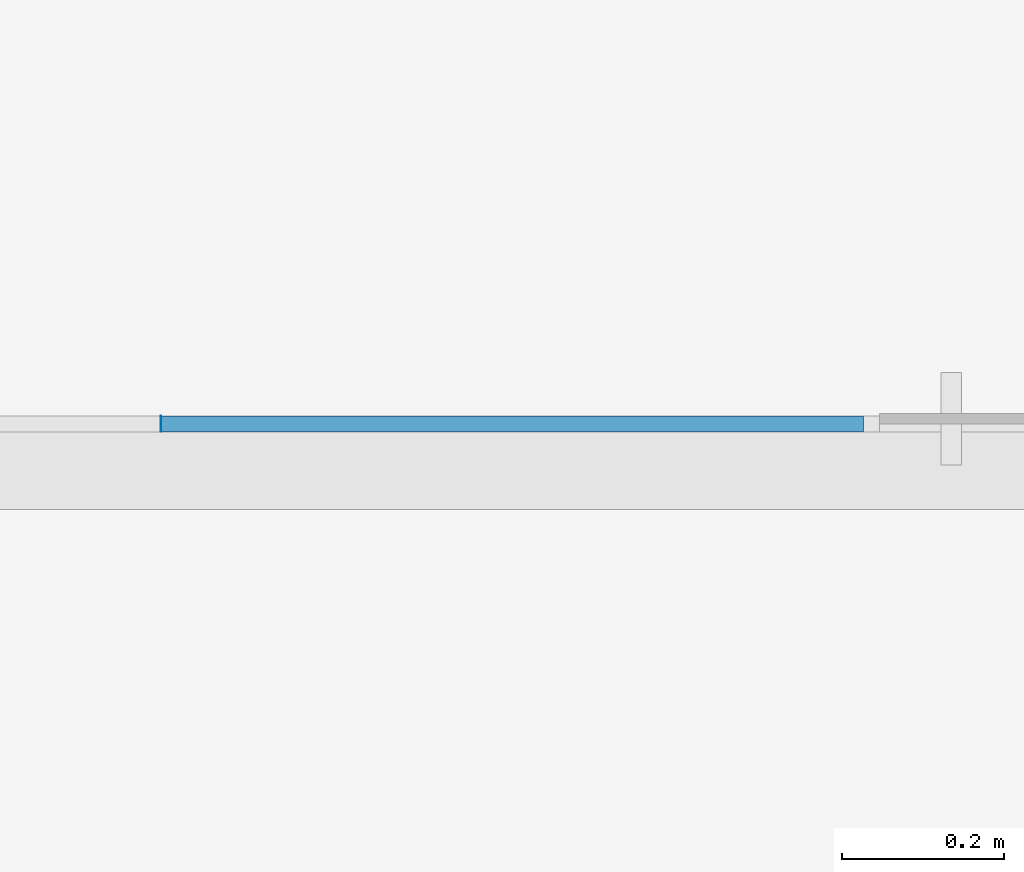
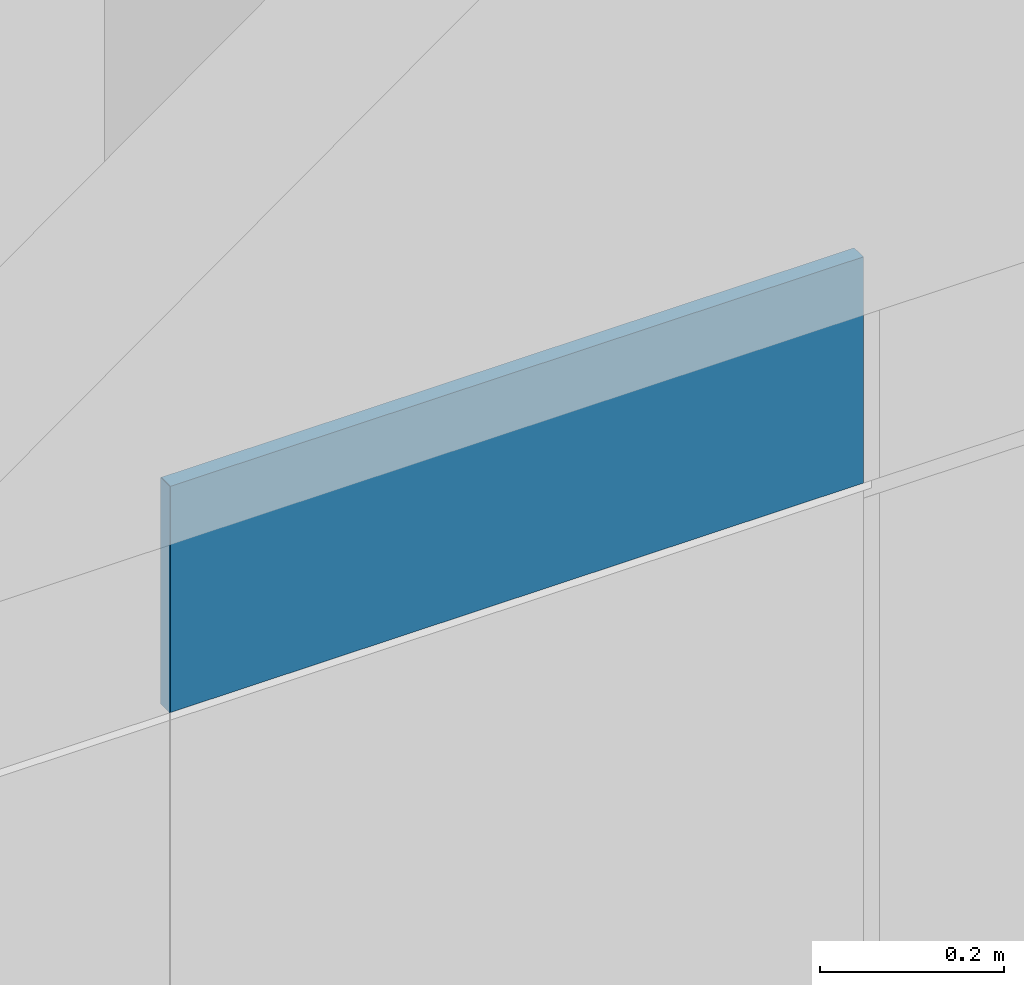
# One storey, part 30 of 66: 2 plates, 1 element without a shape of its own.
"""IFC2X3 building model written with IfcOpenShell, lengths in millimetres."""

from ifc_helpers import new_model, entity, si_unit, converted_unit, derived_unit, direction, frame, origin, origin_2d_with_axis, place, context, subcontext, project, spatial, rectangle, extrude, source, transform, mapped, material, layer, layer_set, layer_usage, type_object, type_shapes, element, aggregate, save


model = new_model("IFC2X3")

# Units and contexts
model_context = context("Model", 3, precision=0.01, world=origin(), true_north=direction((6.12303176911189e-17, 1.0)))
body_context = subcontext(model_context, "Body", "Model", "MODEL_VIEW")
ifc_project = project(units=[si_unit("LENGTHUNIT", "METRE", prefix="MILLI"), si_unit("AREAUNIT", "SQUARE_METRE"), si_unit("VOLUMEUNIT", "CUBIC_METRE"), converted_unit("PLANEANGLEUNIT", "DEGREE", entity("IfcRatioMeasure", 0.0174532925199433), si_unit("PLANEANGLEUNIT", "RADIAN"), dimensions=[0, 0, 0, 0, 0, 0, 0]), si_unit("MASSUNIT", "GRAM", prefix="KILO"), derived_unit("MASSDENSITYUNIT", [(si_unit("MASSUNIT", "GRAM", prefix="KILO"), 1), (si_unit("LENGTHUNIT", "METRE"), -3)]), si_unit("TIMEUNIT", "SECOND"), si_unit("FREQUENCYUNIT", "HERTZ"), si_unit("THERMODYNAMICTEMPERATUREUNIT", "DEGREE_CELSIUS"), derived_unit("THERMALTRANSMITTANCEUNIT", [(si_unit("MASSUNIT", "GRAM", prefix="KILO"), 1), (si_unit("THERMODYNAMICTEMPERATUREUNIT", "KELVIN"), -1), (si_unit("TIMEUNIT", "SECOND"), -3)]), derived_unit("VOLUMETRICFLOWRATEUNIT", [(si_unit("LENGTHUNIT", "METRE"), 3), (si_unit("TIMEUNIT", "SECOND"), -1)]), si_unit("ELECTRICCURRENTUNIT", "AMPERE"), si_unit("ELECTRICVOLTAGEUNIT", "VOLT"), si_unit("POWERUNIT", "WATT"), si_unit("FORCEUNIT", "NEWTON", prefix="KILO"), si_unit("ILLUMINANCEUNIT", "LUX"), si_unit("LUMINOUSFLUXUNIT", "LUMEN"), si_unit("LUMINOUSINTENSITYUNIT", "CANDELA"), derived_unit("USERDEFINED", [(si_unit("MASSUNIT", "GRAM", prefix="KILO"), -1), (si_unit("LENGTHUNIT", "METRE"), -2), (si_unit("TIMEUNIT", "SECOND"), 3), (si_unit("LUMINOUSFLUXUNIT", "LUMEN"), 1)]), derived_unit("LINEARVELOCITYUNIT", [(si_unit("LENGTHUNIT", "METRE"), 1), (si_unit("TIMEUNIT", "SECOND"), -1)]), si_unit("PRESSUREUNIT", "PASCAL"), derived_unit("USERDEFINED", [(si_unit("LENGTHUNIT", "METRE"), -2), (si_unit("MASSUNIT", "GRAM", prefix="KILO"), 1), (si_unit("TIMEUNIT", "SECOND"), -2)])], contexts=[model_context])

# Site, building, storey
site_placement = place(None, frame((-151.875543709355, 2715.0, 0.0)))
site = spatial("IfcSite", under=ifc_project, at=site_placement, Name="Surface", CompositionType="ELEMENT")
building_placement = place(site_placement, origin())
building = spatial("IfcBuilding", under=site, at=building_placement, CompositionType="ELEMENT")
storey_placement = place(building_placement, frame((0.0, 0.0, 3350.0)))
storey = spatial("IfcBuildingStorey", under=building, at=storey_placement, Name="2 korrus", CompositionType="ELEMENT", Elevation=3350.00000000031)

# Curtain wall, plates
curtain_wall_type = type_object("IfcCurtainWallType", Name="Curtain Wall:Klaassein KLS-08", PredefinedType="NOTDEFINED")
curtain_wall_placement = place(storey_placement, frame((0.0, 0.0, -3350.0)))
curtain_wall = element("IfcCurtainWall", 1, at=curtain_wall_placement, inside=storey, type_object=curtain_wall_type, Name="Curtain Wall:Klaassein KLS-08", ObjectType="Curtain Wall:Klaassein KLS-08")
ifc_material = material(Name="<Unnamed>")
ifc_layer = layer(ifc_material, 20.0)
ifc_layer_set = layer_set([ifc_layer], Name="Curtain Wall:Klaassein KLS-01")
ifc_layer_usage_1 = layer_usage(ifc_layer_set, "AXIS3", "POSITIVE", 0.0)
plate_type_1 = type_object("IfcPlateType", Name="Glazed", PredefinedType="CURTAIN_PANEL", material=ifc_layer_set)
shared_shape_1 = source(origin(), body_context, "Body", "SweptSolid", [
    extrude(rectangle(XDim=20.0, YDim=0.999999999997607, at=origin_2d_with_axis()), frame((0.0, 0.0, 0.0), z_axis=(0.0, 0.0, 1.0), x_axis=(0.0, 1.0, 0.0)), (0.0, 0.0, 1.0), 299.999999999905),
])
type_shapes(plate_type_1, [shared_shape_1])
plate_1_placement = place(curtain_wall_placement, frame((7659.98460786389, 4355.04493399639, 5450.0)))
plate_1 = element("IfcPlate", 2, at=plate_1_placement, type_object=plate_type_1, material=ifc_layer_usage_1, Name="System Panel:Glazed", ObjectType="Glazed", context=body_context, shape_type="MappedRepresentation", body=[
    mapped(shared_shape_1, transform((0.0, 0.0, 0.0), scale=1.0)),
])
ifc_layer_usage_2 = layer_usage(ifc_layer_set, "AXIS3", "POSITIVE", 0.0)
plate_type_2 = type_object("IfcPlateType", Name="Glazed", PredefinedType="CURTAIN_PANEL", material=ifc_layer_set)
shared_shape_2 = source(origin(), body_context, "Body", "SweptSolid", [
    extrude(rectangle(XDim=20.0, YDim=869.080118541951, at=origin_2d_with_axis()), frame((0.0, 0.0, 0.0), z_axis=(0.0, 0.0, 1.0), x_axis=(0.0, 1.0, 0.0)), (0.0, 0.0, 1.0), 299.999999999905),
])
type_shapes(plate_type_2, [shared_shape_2])
plate_2_placement = place(curtain_wall_placement, frame((8095.02466713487, 4355.04493399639, 5450.0)))
plate_2 = element("IfcPlate", 3, at=plate_2_placement, type_object=plate_type_2, material=ifc_layer_usage_2, Name="System Panel:Glazed", ObjectType="Glazed", context=body_context, shape_type="MappedRepresentation", body=[
    mapped(shared_shape_2, transform((0.0, 0.0, 0.0), scale=1.0)),
])
aggregate(curtain_wall, [plate_1, plate_2])

save(model, "model.ifc")
